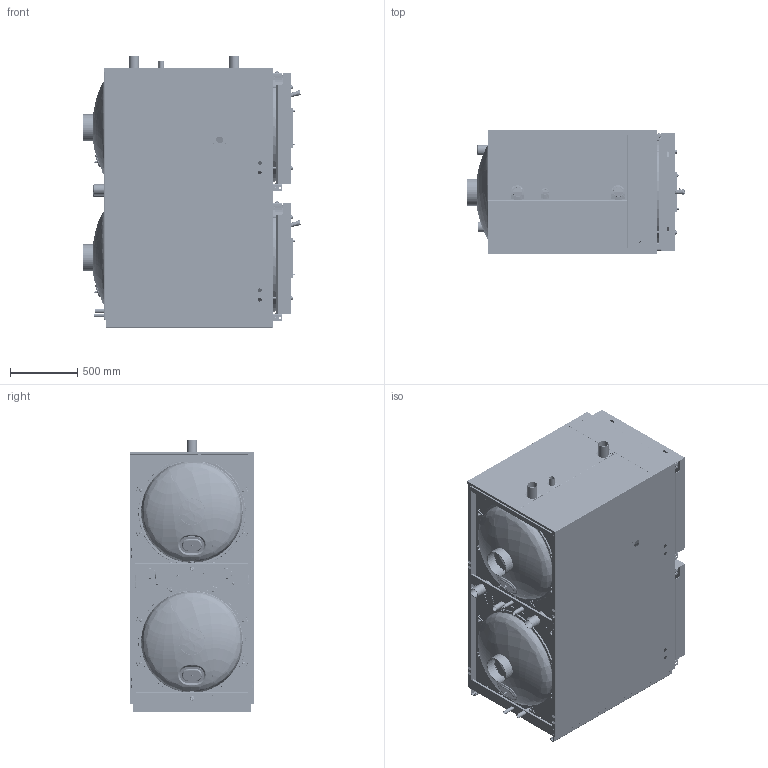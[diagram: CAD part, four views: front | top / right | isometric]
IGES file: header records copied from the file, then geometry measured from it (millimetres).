
Start section: START RECORD GO HERE.
Global section: file name: 20067751-20067752 RTQ 2F 594-646 2S .igs; native system: DASSAULT SYSTEMES CATIA V5 R20 - www.3ds.com; preprocessor: CATIA Version 5 Release 20 SP 6 ; author: Riello S.p.A.; organization: RIELLO-IT; date: 20131017.164745; units: millimetre
Bounding box: 1623.89 x 930.1 x 2031 mm (x, y, z)
Surface area: 73761834.2 mm2 (no closed solid volume)
Topology: 0 solids, 0 shells, 12140 faces, 59233 edges, 59127 vertices
Faces by surface type: plane 6662, revolution 4713, bspline 765
